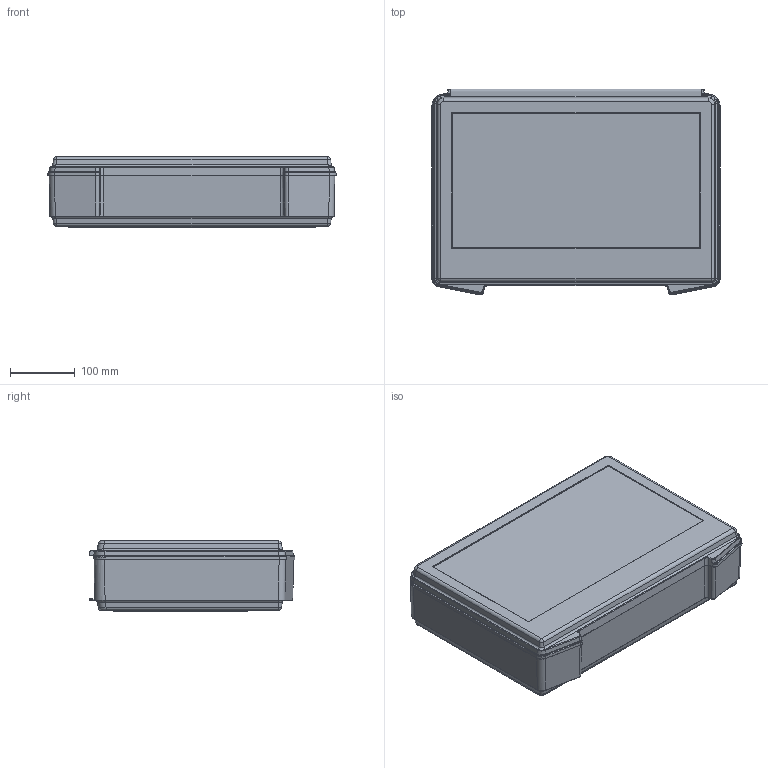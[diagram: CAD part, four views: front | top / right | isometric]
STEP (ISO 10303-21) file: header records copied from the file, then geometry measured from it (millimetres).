
FILE_DESCRIPTION(/* description */ (''),/* implementation_level */ '2;1');
FILE_NAME(/* name */ 'T81_Case_OT-UT.stp',/* time_stamp */ '2014-10-06T09:33:47+02:00',/* author */ (''),/* organization */ (''),/* preprocessor_version */ 'ST-DEVELOPER v15',/* originating_system */ 'SIEMENS PLM Software NX 8.5',/* authorisation */ '');
FILE_SCHEMA (('AUTOMOTIVE_DESIGN { 1 0 10303 214 3 1 1 1 }'));
Length unit declared in the file: millimetre
Products named in the file (1): pk1A9099730guj
Bounding box: 444 x 317.05 x 108.2 mm (x, y, z)
Volume: 1178962.7 mm3; surface area: 825116.5 mm2
Topology: 2 solids, 2 shells, 696 faces, 1691 edges, 1000 vertices
Faces by surface type: cylinder 277, plane 217, bspline 172, torus 16, sphere 12, cone 2
Entity records: 22812 total; most frequent: CARTESIAN_POINT 7469, ORIENTED_EDGE 3356, DIRECTION 3065, EDGE_CURVE 1678, AXIS2_PLACEMENT_3D 1117, VERTEX_POINT 1004, LINE 831, VECTOR 831
